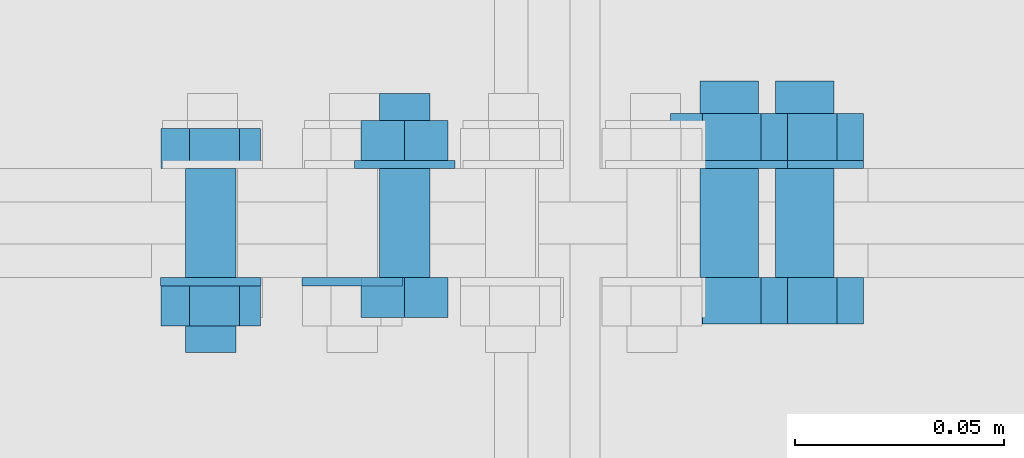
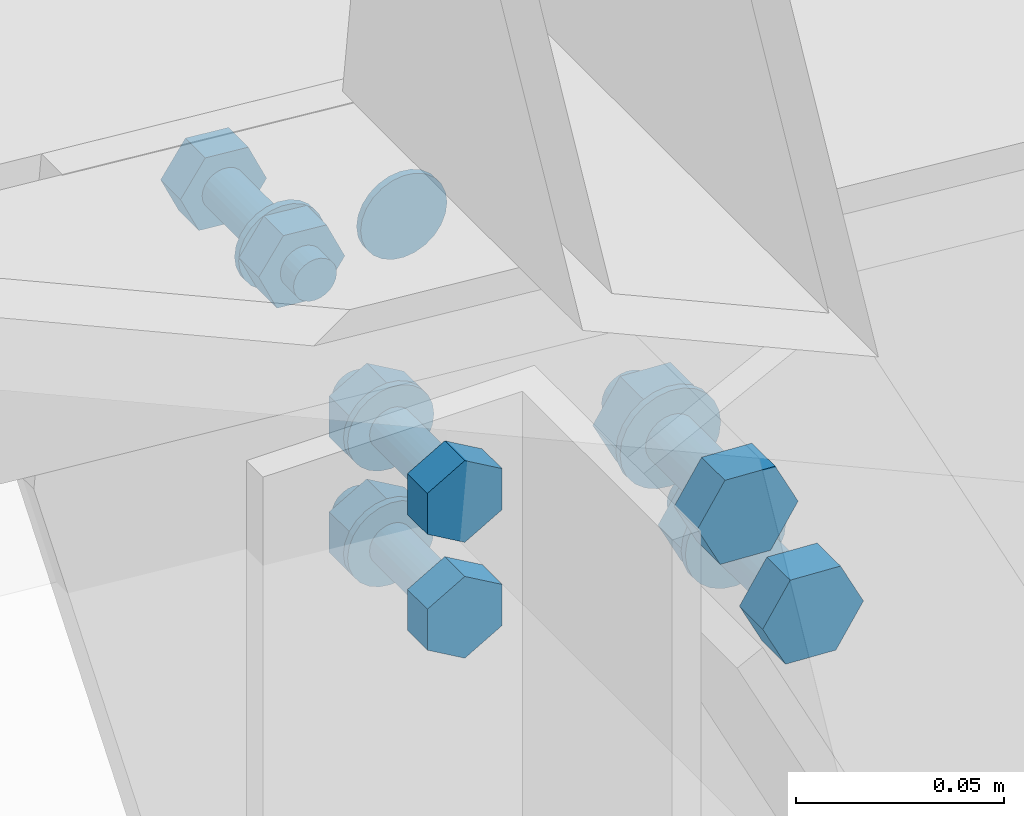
# One storey, part 196 of 251: 21 mechanical fasteners.
"""IFC4 building model written with IfcOpenShell, lengths in metres."""

from ifc_helpers import new_model, si_unit, frame, origin_with_axes, place, context, project, spatial, polyline, outline, extrude, type_object, element, save


model = new_model("IFC4")

# Units and contexts
model_context = context("Model", 3, precision=1e-05, world=origin_with_axes())
ifc_project = project(units=[si_unit("LENGTHUNIT", "METRE"), si_unit("AREAUNIT", "SQUARE_METRE"), si_unit("VOLUMEUNIT", "CUBIC_METRE"), si_unit("MASSUNIT", "GRAM", prefix="KILO"), si_unit("TIMEUNIT", "SECOND"), si_unit("PLANEANGLEUNIT", "RADIAN"), si_unit("SOLIDANGLEUNIT", "STERADIAN"), si_unit("THERMODYNAMICTEMPERATUREUNIT", "DEGREE_CELSIUS")], contexts=[model_context])

# Site, building, storey
placement_1 = place(None, origin_with_axes())
site = spatial("IfcSite", under=ifc_project, at=placement_1, Name="Italia", CompositionType="ELEMENT")
building = spatial("IfcBuilding", under=site, at=placement_1, Name="Deposito", CompositionType="ELEMENT")
storey = spatial("IfcBuildingStorey", under=building, at=placement_1, Name="Storey 0", CompositionType="ELEMENT", Elevation=0.0)

# Mechanical fasteners
mechanical_fastener_type_1 = type_object("IfcMechanicalFastenerType", Name="Reticolare 6", PredefinedType="BOLT")
placement_2 = place(placement_1, origin_with_axes())
mechanical_fastener_1_placement = place(placement_2, origin_with_axes())
element("IfcMechanicalFastener", 1, at=mechanical_fastener_1_placement, inside=storey, type_object=mechanical_fastener_type_1, Name="Reticolare 6", NominalDiameter=0.024, context=model_context, shape_type="SweptSolid", body=[
    extrude(outline(polyline([(0.0, 0.0), (-0.000409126, -0.00310564), (-0.00160789, -0.00600004), (-0.00351524, -0.00848532), (-0.00600052, -0.0103922), (-0.00889397, -0.011591), (-0.0120001, -0.0120001), (-0.0151062, -0.011591), (-0.0179996, -0.0103922), (-0.0204849, -0.00848532), (-0.0223923, -0.00600004), (-0.023591, -0.00310564), (-0.0240002, 0.0), (-0.023591, 0.00310564), (-0.0223923, 0.00600004), (-0.0204849, 0.00848532), (-0.0179996, 0.0103922), (-0.0151062, 0.011591), (-0.0120001, 0.0120001), (-0.00889397, 0.011591), (-0.00600052, 0.0103922), (-0.00351524, 0.00848532), (-0.00160789, 0.00600004), (-0.000409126, 0.00310564), (0.0, 0.0)])), frame((9.01032, 19.985, 6.9534), z_axis=(0.0, 1.0, 0.0), x_axis=(-1.0, 0.0, 0.0)), (0.0, 0.0, 1.0), 0.0019989),
])
mechanical_fastener_type_2 = type_object("IfcMechanicalFastenerType", Name="Reticolare 6", PredefinedType="BOLT")
mechanical_fastener_2_placement = place(placement_2, origin_with_axes())
element("IfcMechanicalFastener", 2, at=mechanical_fastener_2_placement, inside=storey, type_object=mechanical_fastener_type_2, Name="Reticolare 6", NominalDiameter=0.012, context=model_context, shape_type="SweptSolid", body=[
    extrude(outline(polyline([(0.0, 0.0), (0.0119543, 0.0010457), (0.018837, -0.00878429), (0.0137653, -0.01966), (0.00181103, -0.0207057), (-0.00507164, -0.0108757), (0.0, 0.0)])), frame((8.99533, 20.013, 6.96619), z_axis=(0.0, 1.0, 0.0), x_axis=(-1.0, 0.0, 0.0)), (0.0, 0.0, 1.0), 0.00959969),
])
mechanical_fastener_type_3 = type_object("IfcMechanicalFastenerType", Name="Reticolare 6", PredefinedType="BOLT")
mechanical_fastener_3_placement = place(placement_2, origin_with_axes())
element("IfcMechanicalFastener", 3, at=mechanical_fastener_3_placement, inside=storey, type_object=mechanical_fastener_type_3, Name="Reticolare 6", NominalDiameter=0.012, context=model_context, shape_type="SweptSolid", body=[
    extrude(outline(polyline([(0.0, 0.0), (-0.000204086, -0.00155306), (-0.000802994, -0.00299978), (-0.00175667, -0.00424242), (-0.00299931, -0.00519609), (-0.00444698, -0.00579548), (-0.00599957, -0.00600004), (-0.00755215, -0.00579548), (-0.00899982, -0.00519609), (-0.0102425, -0.00424242), (-0.0111961, -0.00299978), (-0.011795, -0.00155306), (-0.0119991, 0.0), (-0.011795, 0.00155306), (-0.0111961, 0.00299978), (-0.0102425, 0.00424242), (-0.00899982, 0.00519609), (-0.00755215, 0.00579548), (-0.00599957, 0.00600004), (-0.00444698, 0.00579548), (-0.00299931, 0.00519609), (-0.00175667, 0.00424242), (-0.000802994, 0.00299978), (-0.000204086, 0.00155306), (0.0, 0.0)])), frame((8.98245, 19.969, 6.95636), z_axis=(0.0, 1.0, 0.0), x_axis=(-1.0, 0.0, 0.0)), (0.0, 0.0, 1.0), 0.0440006),
])
mechanical_fastener_type_4 = type_object("IfcMechanicalFastenerType", Name="Reticolare 6", PredefinedType="BOLT")
mechanical_fastener_4_placement = place(placement_2, origin_with_axes())
element("IfcMechanicalFastener", 4, at=mechanical_fastener_4_placement, inside=storey, type_object=mechanical_fastener_type_4, Name="Reticolare 6", NominalDiameter=0.012, context=model_context, shape_type="SweptSolid", body=[
    extrude(outline(polyline([(0.0, 0.0), (0.0119543, 0.0010457), (0.018837, -0.00878429), (0.0137653, -0.01966), (0.00181103, -0.0207057), (-0.00507164, -0.0108757), (0.0, 0.0)])), frame((8.99533, 19.9754, 6.96619), z_axis=(0.0, 1.0, 0.0), x_axis=(-1.0, 0.0, 0.0)), (0.0, 0.0, 1.0), 0.00959969),
])
mechanical_fastener_type_5 = type_object("IfcMechanicalFastenerType", Name="Reticolare 6", PredefinedType="BOLT")
mechanical_fastener_5_placement = place(placement_2, origin_with_axes())
element("IfcMechanicalFastener", 5, at=mechanical_fastener_5_placement, inside=storey, type_object=mechanical_fastener_type_5, Name="Reticolare 6", NominalDiameter=0.024, context=model_context, shape_type="SweptSolid", body=[
    extrude(outline(polyline([(0.0, 0.0), (-0.000409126, -0.00310564), (-0.00160789, -0.00600004), (-0.00351524, -0.00848532), (-0.00600052, -0.0103922), (-0.00889397, -0.011591), (-0.0120001, -0.0120001), (-0.0151062, -0.011591), (-0.0179996, -0.0103922), (-0.0204849, -0.00848532), (-0.0223923, -0.00600004), (-0.023591, -0.00310564), (-0.0240002, 0.0), (-0.023591, 0.00310564), (-0.0223923, 0.00600004), (-0.0204849, 0.00848532), (-0.0179996, 0.0103922), (-0.0151062, 0.011591), (-0.0120001, 0.0120001), (-0.00889397, 0.011591), (-0.00600052, 0.0103922), (-0.00351524, 0.00848532), (-0.00160789, 0.00600004), (-0.000409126, 0.00310564), (0.0, 0.0)])), frame((8.97645, 19.985, 6.95636), z_axis=(0.0, 1.0, 0.0), x_axis=(-1.0, 0.0, 0.0)), (0.0, 0.0, 1.0), 0.0019989),
])
mechanical_fastener_type_6 = type_object("IfcMechanicalFastenerType", Name="Reticolare 6", PredefinedType="BOLT")
mechanical_fastener_6_placement = place(placement_2, origin_with_axes())
element("IfcMechanicalFastener", 6, at=mechanical_fastener_6_placement, inside=storey, type_object=mechanical_fastener_type_6, Name="Reticolare 6", NominalDiameter=0.0119999, context=model_context, shape_type="SweptSolid", body=[
    extrude(outline(polyline([(0.0, 0.0), (0.0, -0.0120001), (-0.0103922, -0.0180001), (-0.0207844, -0.0120001), (-0.0207844, 0.0), (-0.0103922, 0.00600004), (0.0, 0.0)])), frame((9.04525, 19.987, 6.87595), z_axis=(0.0, -1.0, 0.0), x_axis=(1.0, 0.0, 0.0)), (0.0, 0.0, 1.0), 0.00959969),
])
mechanical_fastener_type_7 = type_object("IfcMechanicalFastenerType", Name="Reticolare 6", PredefinedType="BOLT")
mechanical_fastener_7_placement = place(placement_2, origin_with_axes())
element("IfcMechanicalFastener", 7, at=mechanical_fastener_7_placement, inside=storey, type_object=mechanical_fastener_type_7, Name="Reticolare 6", NominalDiameter=0.012, context=model_context, shape_type="SweptSolid", body=[
    extrude(outline(polyline([(0.0, 0.0), (-0.000204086, -0.00155306), (-0.000802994, -0.00299978), (-0.00175667, -0.00424242), (-0.00299931, -0.00519609), (-0.00444698, -0.00579548), (-0.00599957, -0.00600004), (-0.00755215, -0.00579548), (-0.00899982, -0.00519609), (-0.0102425, -0.00424242), (-0.0111961, -0.00299978), (-0.011795, -0.00155306), (-0.0119991, 0.0), (-0.011795, 0.00155306), (-0.0111961, 0.00299978), (-0.0102425, 0.00424242), (-0.00899982, 0.00519609), (-0.00755215, 0.00579548), (-0.00599957, 0.00600004), (-0.00444698, 0.00579548), (-0.00299931, 0.00519609), (-0.00175667, 0.00424242), (-0.000802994, 0.00299978), (-0.000204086, 0.00155306), (0.0, 0.0)])), frame((9.04086, 20.031, 6.86995), z_axis=(0.0, -1.0, 0.0), x_axis=(1.0, 0.0, 0.0)), (0.0, 0.0, 1.0), 0.0440006),
])
mechanical_fastener_type_8 = type_object("IfcMechanicalFastenerType", Name="Reticolare 6", PredefinedType="BOLT")
mechanical_fastener_8_placement = place(placement_2, origin_with_axes())
element("IfcMechanicalFastener", 8, at=mechanical_fastener_8_placement, inside=storey, type_object=mechanical_fastener_type_8, Name="Reticolare 6", NominalDiameter=0.0119999, context=model_context, shape_type="SweptSolid", body=[
    extrude(outline(polyline([(0.0, 0.0), (0.0, -0.0120001), (-0.0103922, -0.0180001), (-0.0207844, -0.0120001), (-0.0207844, 0.0), (-0.0103922, 0.00600004), (0.0, 0.0)])), frame((9.04525, 20.0246, 6.87595), z_axis=(0.0, -1.0, 0.0), x_axis=(1.0, 0.0, 0.0)), (0.0, 0.0, 1.0), 0.00959969),
])
mechanical_fastener_type_9 = type_object("IfcMechanicalFastenerType", Name="Reticolare 6", PredefinedType="BOLT")
mechanical_fastener_9_placement = place(placement_2, origin_with_axes())
element("IfcMechanicalFastener", 9, at=mechanical_fastener_9_placement, inside=storey, type_object=mechanical_fastener_type_9, Name="Reticolare 6", NominalDiameter=0.024, context=model_context, shape_type="SweptSolid", body=[
    extrude(outline(polyline([(0.0, 0.0), (-0.000409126, -0.00310564), (-0.00160789, -0.00600004), (-0.00351524, -0.00848532), (-0.00600052, -0.0103922), (-0.00889397, -0.011591), (-0.0120001, -0.0120001), (-0.0151062, -0.011591), (-0.0179996, -0.0103922), (-0.0204849, -0.00848532), (-0.0223923, -0.00600004), (-0.023591, -0.00310564), (-0.0240002, 0.0), (-0.023591, 0.00310564), (-0.0223923, 0.00600004), (-0.0204849, 0.00848532), (-0.0179996, 0.0103922), (-0.0151062, 0.011591), (-0.0120001, 0.0120001), (-0.00889397, 0.011591), (-0.00600052, 0.0103922), (-0.00351524, 0.00848532), (-0.00160789, 0.00600004), (-0.000409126, 0.00310564), (0.0, 0.0)])), frame((9.04686, 20.015, 6.86995), z_axis=(0.0, -1.0, 0.0), x_axis=(1.0, 0.0, 0.0)), (0.0, 0.0, 1.0), 0.0019989),
])
mechanical_fastener_type_10 = type_object("IfcMechanicalFastenerType", Name="Reticolare 6", PredefinedType="BOLT")
mechanical_fastener_10_placement = place(placement_2, origin_with_axes())
element("IfcMechanicalFastener", 10, at=mechanical_fastener_10_placement, inside=storey, type_object=mechanical_fastener_type_10, Name="Reticolare 6", NominalDiameter=0.0119999, context=model_context, shape_type="SweptSolid", body=[
    extrude(outline(polyline([(0.0, 0.0), (0.0, -0.0120001), (-0.0103922, -0.0180001), (-0.0207844, -0.0120001), (-0.0207844, 0.0), (-0.0103922, 0.00600004), (0.0, 0.0)])), frame((9.04525, 19.987, 6.84195), z_axis=(0.0, -1.0, 0.0), x_axis=(1.0, 0.0, 0.0)), (0.0, 0.0, 1.0), 0.00959969),
])
mechanical_fastener_type_11 = type_object("IfcMechanicalFastenerType", Name="Reticolare 6", PredefinedType="BOLT")
mechanical_fastener_11_placement = place(placement_2, origin_with_axes())
element("IfcMechanicalFastener", 11, at=mechanical_fastener_11_placement, inside=storey, type_object=mechanical_fastener_type_11, Name="Reticolare 6", NominalDiameter=0.012, context=model_context, shape_type="SweptSolid", body=[
    extrude(outline(polyline([(0.0, 0.0), (-0.000204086, -0.00155306), (-0.000802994, -0.00299978), (-0.00175667, -0.00424242), (-0.00299931, -0.00519609), (-0.00444698, -0.00579548), (-0.00599957, -0.00600004), (-0.00755215, -0.00579548), (-0.00899982, -0.00519609), (-0.0102425, -0.00424242), (-0.0111961, -0.00299978), (-0.011795, -0.00155306), (-0.0119991, 0.0), (-0.011795, 0.00155306), (-0.0111961, 0.00299978), (-0.0102425, 0.00424242), (-0.00899982, 0.00519609), (-0.00755215, 0.00579548), (-0.00599957, 0.00600004), (-0.00444698, 0.00579548), (-0.00299931, 0.00519609), (-0.00175667, 0.00424242), (-0.000802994, 0.00299978), (-0.000204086, 0.00155306), (0.0, 0.0)])), frame((9.04086, 20.031, 6.83595), z_axis=(0.0, -1.0, 0.0), x_axis=(1.0, 0.0, 0.0)), (0.0, 0.0, 1.0), 0.0440006),
])
mechanical_fastener_type_12 = type_object("IfcMechanicalFastenerType", Name="Reticolare 6", PredefinedType="BOLT")
mechanical_fastener_12_placement = place(placement_2, origin_with_axes())
element("IfcMechanicalFastener", 12, at=mechanical_fastener_12_placement, inside=storey, type_object=mechanical_fastener_type_12, Name="Reticolare 6", NominalDiameter=0.0119999, context=model_context, shape_type="SweptSolid", body=[
    extrude(outline(polyline([(0.0, 0.0), (0.0, -0.0120001), (-0.0103922, -0.0180001), (-0.0207844, -0.0120001), (-0.0207844, 0.0), (-0.0103922, 0.00600004), (0.0, 0.0)])), frame((9.04525, 20.0246, 6.84195), z_axis=(0.0, -1.0, 0.0), x_axis=(1.0, 0.0, 0.0)), (0.0, 0.0, 1.0), 0.00959969),
])
mechanical_fastener_type_13 = type_object("IfcMechanicalFastenerType", Name="Reticolare 6", PredefinedType="BOLT")
mechanical_fastener_13_placement = place(placement_2, origin_with_axes())
element("IfcMechanicalFastener", 13, at=mechanical_fastener_13_placement, inside=storey, type_object=mechanical_fastener_type_13, Name="Reticolare 6", NominalDiameter=0.024, context=model_context, shape_type="SweptSolid", body=[
    extrude(outline(polyline([(0.0, 0.0), (-0.000409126, -0.00310564), (-0.00160789, -0.00600004), (-0.00351524, -0.00848532), (-0.00600052, -0.0103922), (-0.00889397, -0.011591), (-0.0120001, -0.0120001), (-0.0151062, -0.011591), (-0.0179996, -0.0103922), (-0.0204849, -0.00848532), (-0.0223923, -0.00600004), (-0.023591, -0.00310564), (-0.0240002, 0.0), (-0.023591, 0.00310564), (-0.0223923, 0.00600004), (-0.0204849, 0.00848532), (-0.0179996, 0.0103922), (-0.0151062, 0.011591), (-0.0120001, 0.0120001), (-0.00889397, 0.011591), (-0.00600052, 0.0103922), (-0.00351524, 0.00848532), (-0.00160789, 0.00600004), (-0.000409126, 0.00310564), (0.0, 0.0)])), frame((9.04686, 20.015, 6.83595), z_axis=(0.0, -1.0, 0.0), x_axis=(1.0, 0.0, 0.0)), (0.0, 0.0, 1.0), 0.0019989),
])
mechanical_fastener_type_14 = type_object("IfcMechanicalFastenerType", Name="Reticolare 6", PredefinedType="BOLT")
mechanical_fastener_14_placement = place(placement_2, origin_with_axes())
element("IfcMechanicalFastener", 14, at=mechanical_fastener_14_placement, inside=storey, type_object=mechanical_fastener_type_14, Name="Reticolare 6", NominalDiameter=0.0139996, context=model_context, shape_type="SweptSolid", body=[
    extrude(outline(polyline([(0.0, 0.0), (-0.0063467, 0.0124784), (0.00128746, 0.0242143), (0.0152674, 0.0234714), (0.0216141, 0.0109925), (0.0139799, -0.000743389), (0.0, 0.0)])), frame((9.10486, 19.987, 6.82795), z_axis=(0.0, -1.0, 0.0), x_axis=(1.0, 0.0, 0.0)), (0.0, 0.0, 1.0), 0.0112),
])
mechanical_fastener_type_15 = type_object("IfcMechanicalFastenerType", Name="Reticolare 6", PredefinedType="BOLT")
mechanical_fastener_15_placement = place(placement_2, origin_with_axes())
element("IfcMechanicalFastener", 15, at=mechanical_fastener_15_placement, inside=storey, type_object=mechanical_fastener_type_15, Name="Reticolare 6", NominalDiameter=0.014, context=model_context, shape_type="SweptSolid", body=[
    extrude(outline(polyline([(0.0, 0.0), (-0.000238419, -0.0018115), (-0.000937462, -0.00349998), (-0.0020504, -0.00494957), (-0.00349998, -0.00606203), (-0.00518799, -0.00676155), (-0.00699997, -0.00699997), (-0.00881195, -0.00676155), (-0.0105, -0.00606203), (-0.0119495, -0.00494957), (-0.0130625, -0.00349998), (-0.0137615, -0.0018115), (-0.0139999, 0.0), (-0.0137615, 0.0018115), (-0.0130625, 0.00349998), (-0.0119495, 0.00494957), (-0.0105, 0.00606203), (-0.00881195, 0.00676155), (-0.00699997, 0.00699997), (-0.00518799, 0.00676155), (-0.00349998, 0.00606203), (-0.0020504, 0.00494957), (-0.000937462, 0.00349998), (-0.000238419, 0.0018115), (0.0, 0.0)])), frame((9.11949, 20.034, 6.83969), z_axis=(0.0, -1.0, 0.0), x_axis=(1.0, 0.0, 0.0)), (0.0, 0.0, 1.0), 0.0470009),
])
mechanical_fastener_type_16 = type_object("IfcMechanicalFastenerType", Name="Reticolare 6", PredefinedType="BOLT")
mechanical_fastener_16_placement = place(placement_2, origin_with_axes())
element("IfcMechanicalFastener", 16, at=mechanical_fastener_16_placement, inside=storey, type_object=mechanical_fastener_type_16, Name="Reticolare 6", NominalDiameter=0.0139996, context=model_context, shape_type="SweptSolid", body=[
    extrude(outline(polyline([(0.0, 0.0), (-0.0063467, 0.0124784), (0.00128746, 0.0242143), (0.0152674, 0.0234714), (0.0216141, 0.0109925), (0.0139799, -0.000743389), (0.0, 0.0)])), frame((9.10486, 20.0262, 6.82795), z_axis=(0.0, -1.0, 0.0), x_axis=(1.0, 0.0, 0.0)), (0.0, 0.0, 1.0), 0.0112),
])
mechanical_fastener_type_17 = type_object("IfcMechanicalFastenerType", Name="Reticolare 6", PredefinedType="BOLT")
mechanical_fastener_17_placement = place(placement_2, origin_with_axes())
element("IfcMechanicalFastener", 17, at=mechanical_fastener_17_placement, inside=storey, type_object=mechanical_fastener_type_17, Name="Reticolare 6", NominalDiameter=0.028, context=model_context, shape_type="SweptSolid", body=[
    extrude(outline(polyline([(0.0, 0.0), (-0.000476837, -0.00362349), (-0.00187588, -0.00699997), (-0.0041008, -0.00989962), (-0.00699997, -0.0121245), (-0.0103769, -0.0135231), (-0.0139999, -0.0139999), (-0.0176229, -0.0135231), (-0.0209999, -0.0121245), (-0.0238991, -0.00989962), (-0.026124, -0.00699997), (-0.027523, -0.00362349), (-0.0279999, 0.0), (-0.027523, 0.00362349), (-0.026124, 0.00699997), (-0.0238991, 0.00989962), (-0.0209999, 0.0121245), (-0.0176229, 0.0135231), (-0.0139999, 0.0139999), (-0.0103769, 0.0135231), (-0.00699997, 0.0121245), (-0.0041008, 0.00989962), (-0.00187588, 0.00699997), (-0.000476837, 0.00362349), (0.0, 0.0)])), frame((9.12649, 20.015, 6.83969), z_axis=(0.0, -1.0, 0.0), x_axis=(1.0, 0.0, 0.0)), (0.0, 0.0, 1.0), 0.0019989),
])
mechanical_fastener_type_18 = type_object("IfcMechanicalFastenerType", Name="Reticolare 6", PredefinedType="BOLT")
mechanical_fastener_18_placement = place(placement_2, origin_with_axes())
element("IfcMechanicalFastener", 18, at=mechanical_fastener_18_placement, inside=storey, type_object=mechanical_fastener_type_18, Name="Reticolare 6", NominalDiameter=0.0139996, context=model_context, shape_type="SweptSolid", body=[
    extrude(outline(polyline([(0.0, 0.0), (-0.0063467, 0.0124788), (0.00128746, 0.0242147), (0.0152674, 0.0234718), (0.0216141, 0.010993), (0.0139809, -0.000742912), (0.0, 0.0)])), frame((9.12299, 19.987, 6.7923), z_axis=(0.0, -1.0, 0.0), x_axis=(1.0, 0.0, 0.0)), (0.0, 0.0, 1.0), 0.0112),
])
mechanical_fastener_type_19 = type_object("IfcMechanicalFastenerType", Name="Reticolare 6", PredefinedType="BOLT")
mechanical_fastener_19_placement = place(placement_2, origin_with_axes())
element("IfcMechanicalFastener", 19, at=mechanical_fastener_19_placement, inside=storey, type_object=mechanical_fastener_type_19, Name="Reticolare 6", NominalDiameter=0.014, context=model_context, shape_type="SweptSolid", body=[
    extrude(outline(polyline([(0.0, 0.0), (-0.000238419, -0.0018115), (-0.000937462, -0.00349998), (-0.0020504, -0.00494957), (-0.00349998, -0.00606203), (-0.00518799, -0.00676155), (-0.00699997, -0.00699997), (-0.00881195, -0.00676155), (-0.0105, -0.00606203), (-0.0119495, -0.00494957), (-0.0130625, -0.00349998), (-0.0137615, -0.0018115), (-0.0139999, 0.0), (-0.0137615, 0.0018115), (-0.0130625, 0.00349998), (-0.0119495, 0.00494957), (-0.0105, 0.00606203), (-0.00881195, 0.00676155), (-0.00699997, 0.00699997), (-0.00518799, 0.00676155), (-0.00349998, 0.00606203), (-0.0020504, 0.00494957), (-0.000937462, 0.00349998), (-0.000238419, 0.0018115), (0.0, 0.0)])), frame((9.13762, 20.034, 6.80403), z_axis=(0.0, -1.0, 0.0), x_axis=(1.0, 0.0, 0.0)), (0.0, 0.0, 1.0), 0.0470009),
])
mechanical_fastener_type_20 = type_object("IfcMechanicalFastenerType", Name="Reticolare 6", PredefinedType="BOLT")
mechanical_fastener_20_placement = place(placement_2, origin_with_axes())
element("IfcMechanicalFastener", 20, at=mechanical_fastener_20_placement, inside=storey, type_object=mechanical_fastener_type_20, Name="Reticolare 6", NominalDiameter=0.0139996, context=model_context, shape_type="SweptSolid", body=[
    extrude(outline(polyline([(0.0, 0.0), (-0.0063467, 0.0124788), (0.00128746, 0.0242147), (0.0152674, 0.0234718), (0.0216141, 0.010993), (0.0139809, -0.000742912), (0.0, 0.0)])), frame((9.12299, 20.0262, 6.7923), z_axis=(0.0, -1.0, 0.0), x_axis=(1.0, 0.0, 0.0)), (0.0, 0.0, 1.0), 0.0112),
])
mechanical_fastener_type_21 = type_object("IfcMechanicalFastenerType", Name="Reticolare 6", PredefinedType="BOLT")
mechanical_fastener_21_placement = place(placement_2, origin_with_axes())
element("IfcMechanicalFastener", 21, at=mechanical_fastener_21_placement, inside=storey, type_object=mechanical_fastener_type_21, Name="Reticolare 6", NominalDiameter=0.028, context=model_context, shape_type="SweptSolid", body=[
    extrude(outline(polyline([(0.0, 0.0), (-0.000476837, -0.00362349), (-0.00187588, -0.00699997), (-0.0041008, -0.00989962), (-0.00699997, -0.0121245), (-0.0103769, -0.0135231), (-0.0139999, -0.0139999), (-0.0176229, -0.0135231), (-0.0209999, -0.0121245), (-0.0238991, -0.00989962), (-0.026124, -0.00699997), (-0.027523, -0.00362349), (-0.0279999, 0.0), (-0.027523, 0.00362349), (-0.026124, 0.00699997), (-0.0238991, 0.00989962), (-0.0209999, 0.0121245), (-0.0176229, 0.0135231), (-0.0139999, 0.0139999), (-0.0103769, 0.0135231), (-0.00699997, 0.0121245), (-0.0041008, 0.00989962), (-0.00187588, 0.00699997), (-0.000476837, 0.00362349), (0.0, 0.0)])), frame((9.14462, 20.015, 6.80403), z_axis=(0.0, -1.0, 0.0), x_axis=(1.0, 0.0, 0.0)), (0.0, 0.0, 1.0), 0.0019989),
])

save(model, "model.ifc")
